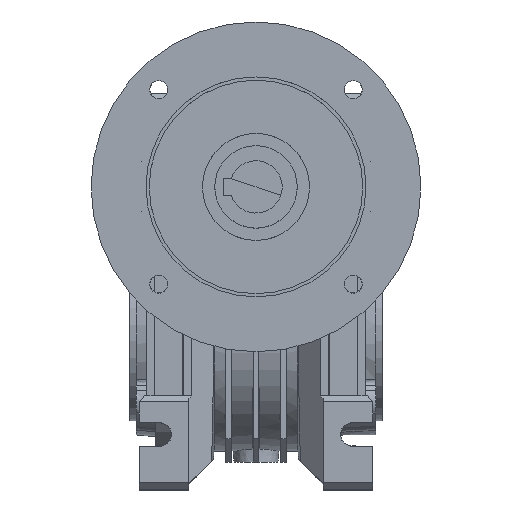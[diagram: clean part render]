
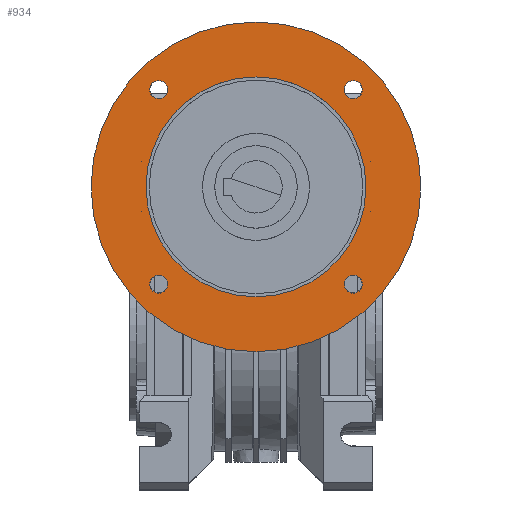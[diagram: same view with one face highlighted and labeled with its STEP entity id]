
A CAD part, top view. The second image highlights one B-rep face of the part: STEP entity #934.
In plain terms, the highlighted planar face has unit normal (0, 0, 1).
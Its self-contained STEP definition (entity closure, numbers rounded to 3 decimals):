
#934 = ADVANCED_FACE( 'NONE', ( #2462, #2463, #2464, #2465, #2466, #2467, #2468, #2469, #2470, #2471 ), #2472, .T. );
#2462 = FACE_OUTER_BOUND( '', #4685, .T. );
#2463 = FACE_BOUND( '', #4686, .T. );
#2464 = FACE_BOUND( '', #4687, .T. );
#2465 = FACE_BOUND( '', #4688, .T. );
#2466 = FACE_BOUND( '', #4689, .T. );
#2467 = FACE_BOUND( '', #4690, .T. );
#2468 = FACE_BOUND( '', #4691, .T. );
#2469 = FACE_BOUND( '', #4692, .T. );
#2470 = FACE_BOUND( '', #4693, .T. );
#2471 = FACE_BOUND( '', #4694, .T. );
#2472 = PLANE( '', #4695 );
#4685 = EDGE_LOOP( '', ( #8034 ) );
#4686 = EDGE_LOOP( '', ( #8035 ) );
#4687 = EDGE_LOOP( '', ( #8036 ) );
#4688 = EDGE_LOOP( '', ( #8037, #8038, #8039 ) );
#4689 = EDGE_LOOP( '', ( #8040, #8041, #8042 ) );
#4690 = EDGE_LOOP( '', ( #8043, #8044, #8045 ) );
#4691 = EDGE_LOOP( '', ( #8046, #8047, #8048 ) );
#4692 = EDGE_LOOP( '', ( #8049 ) );
#4693 = EDGE_LOOP( '', ( #8050 ) );
#4694 = EDGE_LOOP( '', ( #8051 ) );
#4695 = AXIS2_PLACEMENT_3D( '', #8052, #8053, #8054 );
#8034 = ORIENTED_EDGE( '', *, *, #14182, .T. );
#8035 = ORIENTED_EDGE( '', *, *, #14183, .T. );
#8036 = ORIENTED_EDGE( '', *, *, #14184, .T. );
#8037 = ORIENTED_EDGE( '', *, *, #14185, .T. );
#8038 = ORIENTED_EDGE( '', *, *, #14186, .F. );
#8039 = ORIENTED_EDGE( '', *, *, #14187, .F. );
#8040 = ORIENTED_EDGE( '', *, *, #14188, .T. );
#8041 = ORIENTED_EDGE( '', *, *, #14189, .T. );
#8042 = ORIENTED_EDGE( '', *, *, #13965, .F. );
#8043 = ORIENTED_EDGE( '', *, *, #14190, .T. );
#8044 = ORIENTED_EDGE( '', *, *, #14191, .F. );
#8045 = ORIENTED_EDGE( '', *, *, #14192, .F. );
#8046 = ORIENTED_EDGE( '', *, *, #14193, .T. );
#8047 = ORIENTED_EDGE( '', *, *, #14194, .T. );
#8048 = ORIENTED_EDGE( '', *, *, #14195, .F. );
#8049 = ORIENTED_EDGE( '', *, *, #14196, .T. );
#8050 = ORIENTED_EDGE( '', *, *, #14197, .T. );
#8051 = ORIENTED_EDGE( '', *, *, #14198, .T. );
#8052 = CARTESIAN_POINT( '', ( 0., -62., 16. ) );
#8053 = DIRECTION( '', ( 0., 0., 1. ) );
#8054 = DIRECTION( '', ( -1., 0., 0. ) );
#13965 = EDGE_CURVE( 'NONE', #16954, #16957, #16958, .T. );
#14182 = EDGE_CURVE( 'NONE', #17317, #17317, #17318, .T. );
#14183 = EDGE_CURVE( 'NONE', #17319, #17319, #17320, .F. );
#14184 = EDGE_CURVE( 'NONE', #17321, #17321, #17322, .F. );
#14185 = EDGE_CURVE( 'NONE', #17323, #17324, #17325, .F. );
#14186 = EDGE_CURVE( 'NONE', #17326, #17324, #17327, .T. );
#14187 = EDGE_CURVE( 'NONE', #17323, #17326, #17328, .T. );
#14188 = EDGE_CURVE( 'NONE', #16954, #17329, #17330, .F. );
#14189 = EDGE_CURVE( 'NONE', #17329, #16957, #17331, .F. );
#14190 = EDGE_CURVE( 'NONE', #17332, #17333, #17334, .F. );
#14191 = EDGE_CURVE( 'NONE', #17335, #17333, #17336, .T. );
#14192 = EDGE_CURVE( 'NONE', #17332, #17335, #17337, .T. );
#14193 = EDGE_CURVE( 'NONE', #17338, #17339, #17340, .F. );
#14194 = EDGE_CURVE( 'NONE', #17339, #17341, #17342, .F. );
#14195 = EDGE_CURVE( 'NONE', #17338, #17341, #17343, .T. );
#14196 = EDGE_CURVE( 'NONE', #17344, #17344, #17345, .F. );
#14197 = EDGE_CURVE( 'NONE', #17346, #17346, #17347, .F. );
#14198 = EDGE_CURVE( 'NONE', #17348, #17348, #17349, .F. );
#16954 = VERTEX_POINT( 'NONE', #21652 );
#16957 = VERTEX_POINT( 'NONE', #21656 );
#16958 = LINE( '', #21657, #21658 );
#17317 = VERTEX_POINT( '', #22240 );
#17318 = CIRCLE( '', #22241, 59.974 );
#17319 = VERTEX_POINT( '', #22242 );
#17320 = CIRCLE( '', #22243, 3.296 );
#17321 = VERTEX_POINT( '', #22244 );
#17322 = CIRCLE( '', #22245, 3.296 );
#17323 = VERTEX_POINT( 'NONE', #22246 );
#17324 = VERTEX_POINT( 'NONE', #22247 );
#17325 = LINE( '', #22248, #22249 );
#17326 = VERTEX_POINT( 'NONE', #22250 );
#17327 = LINE( '', #22251, #22252 );
#17328 = LINE( '', #22253, #22254 );
#17329 = VERTEX_POINT( 'NONE', #22255 );
#17330 = LINE( '', #22256, #22257 );
#17331 = LINE( '', #22258, #22259 );
#17332 = VERTEX_POINT( 'NONE', #22260 );
#17333 = VERTEX_POINT( 'NONE', #22261 );
#17334 = LINE( '', #22262, #22263 );
#17335 = VERTEX_POINT( 'NONE', #22264 );
#17336 = LINE( '', #22265, #22266 );
#17337 = LINE( '', #22267, #22268 );
#17338 = VERTEX_POINT( 'NONE', #22269 );
#17339 = VERTEX_POINT( 'NONE', #22270 );
#17340 = LINE( '', #22271, #22272 );
#17341 = VERTEX_POINT( 'NONE', #22273 );
#17342 = LINE( '', #22274, #22275 );
#17343 = LINE( '', #22276, #22277 );
#17344 = VERTEX_POINT( '', #22278 );
#17345 = CIRCLE( '', #22279, 3.296 );
#17346 = VERTEX_POINT( '', #22280 );
#17347 = CIRCLE( '', #22281, 3.296 );
#17348 = VERTEX_POINT( '', #22282 );
#17349 = CIRCLE( '', #22283, 40. );
#21652 = CARTESIAN_POINT( '', ( -41.662, 9.066, 16. ) );
#21656 = CARTESIAN_POINT( '', ( -41.795, 9.101, 16. ) );
#21657 = CARTESIAN_POINT( '', ( -56.032, 12.916, 16. ) );
#21658 = VECTOR( '', #28176, 1000. );
#22240 = CARTESIAN_POINT( '', ( -59.974, 0., 16. ) );
#22241 = AXIS2_PLACEMENT_3D( '', #28378, #28379, #28380 );
#22242 = CARTESIAN_POINT( '', ( -38.651, 35.355, 16. ) );
#22243 = AXIS2_PLACEMENT_3D( '', #28381, #28382, #28383 );
#22244 = CARTESIAN_POINT( '', ( 32.059, -35.355, 16. ) );
#22245 = AXIS2_PLACEMENT_3D( '', #28384, #28385, #28386 );
#22246 = CARTESIAN_POINT( '', ( -41.795, -9.066, 16. ) );
#22247 = CARTESIAN_POINT( '', ( -41.662, -9.066, 16. ) );
#22248 = CARTESIAN_POINT( '', ( 0., -9.066, 16. ) );
#22249 = VECTOR( '', #28387, 1000. );
#22250 = CARTESIAN_POINT( '', ( -41.795, -9.101, 16. ) );
#22251 = CARTESIAN_POINT( '', ( -56.032, -12.916, 16. ) );
#22252 = VECTOR( '', #28388, 1000. );
#22253 = CARTESIAN_POINT( '', ( -41.795, -13.014, 16. ) );
#22254 = VECTOR( '', #28389, 1000. );
#22255 = CARTESIAN_POINT( '', ( -41.795, 9.066, 16. ) );
#22256 = CARTESIAN_POINT( '', ( 0., 9.066, 16. ) );
#22257 = VECTOR( '', #28390, 1000. );
#22258 = CARTESIAN_POINT( '', ( -41.795, -62., 16. ) );
#22259 = VECTOR( '', #28391, 1000. );
#22260 = CARTESIAN_POINT( '', ( 41.795, 9.066, 16. ) );
#22261 = CARTESIAN_POINT( '', ( 41.662, 9.066, 16. ) );
#22262 = CARTESIAN_POINT( '', ( 0., 9.066, 16. ) );
#22263 = VECTOR( '', #28392, 1000. );
#22264 = CARTESIAN_POINT( '', ( 41.795, 9.101, 16. ) );
#22265 = CARTESIAN_POINT( '', ( 56.032, 12.916, 16. ) );
#22266 = VECTOR( '', #28393, 1000. );
#22267 = CARTESIAN_POINT( '', ( 41.795, 13.014, 16. ) );
#22268 = VECTOR( '', #28394, 1000. );
#22269 = CARTESIAN_POINT( '', ( 41.662, -9.066, 16. ) );
#22270 = CARTESIAN_POINT( '', ( 41.795, -9.066, 16. ) );
#22271 = CARTESIAN_POINT( '', ( 0., -9.066, 16. ) );
#22272 = VECTOR( '', #28395, 1000. );
#22273 = CARTESIAN_POINT( '', ( 41.795, -9.101, 16. ) );
#22274 = CARTESIAN_POINT( '', ( 41.795, -62., 16. ) );
#22275 = VECTOR( '', #28396, 1000. );
#22276 = CARTESIAN_POINT( '', ( 56.032, -12.916, 16. ) );
#22277 = VECTOR( '', #28397, 1000. );
#22278 = CARTESIAN_POINT( '', ( 32.059, 35.355, 16. ) );
#22279 = AXIS2_PLACEMENT_3D( '', #28398, #28399, #28400 );
#22280 = CARTESIAN_POINT( '', ( -38.651, -35.355, 16. ) );
#22281 = AXIS2_PLACEMENT_3D( '', #28401, #28402, #28403 );
#22282 = CARTESIAN_POINT( '', ( -40., 0., 16. ) );
#22283 = AXIS2_PLACEMENT_3D( '', #28404, #28405, #28406 );
#28176 = DIRECTION( '', ( -0.966, 0.259, 0. ) );
#28378 = CARTESIAN_POINT( '', ( 0., 0., 16. ) );
#28379 = DIRECTION( '', ( 0., 0., 1. ) );
#28380 = DIRECTION( '', ( -1., 0., 0. ) );
#28381 = CARTESIAN_POINT( '', ( -35.355, 35.355, 16. ) );
#28382 = DIRECTION( '', ( 0., 0., 1. ) );
#28383 = DIRECTION( '', ( -1., 0., 0. ) );
#28384 = CARTESIAN_POINT( '', ( 35.355, -35.355, 16. ) );
#28385 = DIRECTION( '', ( 0., 0., 1. ) );
#28386 = DIRECTION( '', ( -1., 0., 0. ) );
#28387 = DIRECTION( '', ( -1., 0., 0. ) );
#28388 = DIRECTION( '', ( 0.966, 0.259, 0. ) );
#28389 = DIRECTION( '', ( 0., -1., 0. ) );
#28390 = DIRECTION( '', ( 1., 0., 0. ) );
#28391 = DIRECTION( '', ( 0., -1., 0. ) );
#28392 = DIRECTION( '', ( 1., 0., 0. ) );
#28393 = DIRECTION( '', ( -0.966, -0.259, 0. ) );
#28394 = DIRECTION( '', ( 0., 1., 0. ) );
#28395 = DIRECTION( '', ( -1., 0., 0. ) );
#28396 = DIRECTION( '', ( 0., 1., 0. ) );
#28397 = DIRECTION( '', ( 0.966, -0.259, 0. ) );
#28398 = CARTESIAN_POINT( '', ( 35.355, 35.355, 16. ) );
#28399 = DIRECTION( '', ( 0., 0., 1. ) );
#28400 = DIRECTION( '', ( -1., 0., 0. ) );
#28401 = CARTESIAN_POINT( '', ( -35.355, -35.355, 16. ) );
#28402 = DIRECTION( '', ( 0., 0., 1. ) );
#28403 = DIRECTION( '', ( -1., 0., 0. ) );
#28404 = CARTESIAN_POINT( '', ( 0., 0., 16. ) );
#28405 = DIRECTION( '', ( 0., 0., 1. ) );
#28406 = DIRECTION( '', ( -1., 0., 0. ) );
